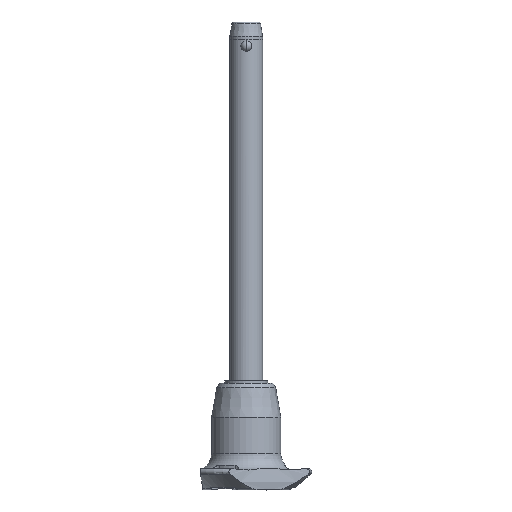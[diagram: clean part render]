
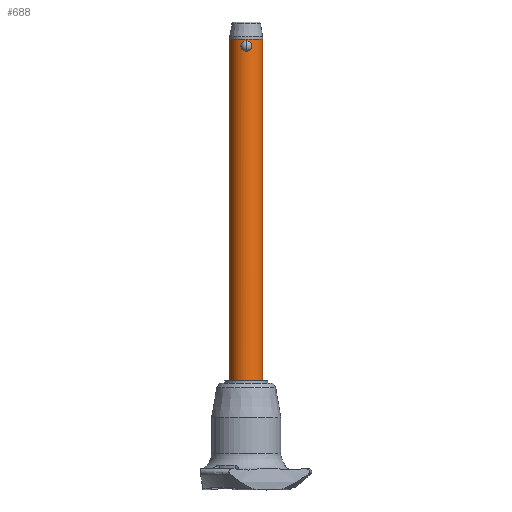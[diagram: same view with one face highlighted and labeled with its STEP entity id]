
A CAD part, front view. The second image highlights one B-rep face of the part: STEP entity #688.
In plain terms, the highlighted cylindrical face has radius 6 mm (diameter 12 mm), a partial arc.
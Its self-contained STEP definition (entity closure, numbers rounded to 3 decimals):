
#121 = DIRECTION ( 'NONE',  ( 1., 0., 0. ) ) ;
#148 = CARTESIAN_POINT ( 'NONE',  ( 0., -6., 3.708 ) ) ;
#185 = CARTESIAN_POINT ( 'NONE',  ( 0.503, -5.983, 0.045 ) ) ;
#211 = CARTESIAN_POINT ( 'NONE',  ( -0.504, -5.983, 0.045 ) ) ;
#214 = DIRECTION ( 'NONE',  ( 0., 0., 1. ) ) ;
#242 = CARTESIAN_POINT ( 'NONE',  ( -1.955, -5.673, 2.107 ) ) ;
#310 = EDGE_CURVE ( 'NONE', #790, #874, #1644, .T. ) ;
#338 = CARTESIAN_POINT ( 'NONE',  ( 0., -6., 0. ) ) ;
#397 = CARTESIAN_POINT ( 'NONE',  ( 0.966, -5.923, 0.232 ) ) ;
#420 = CARTESIAN_POINT ( 'NONE',  ( 1.851, -5.708, 2.47 ) ) ;
#441 = FACE_BOUND ( 'NONE', #2381, .T. ) ;
#462 = CARTESIAN_POINT ( 'NONE',  ( -0.252, -5.996, 3.697 ) ) ;
#515 = CARTESIAN_POINT ( 'NONE',  ( -6., 0., -120. ) ) ;
#525 = AXIS2_PLACEMENT_3D ( 'NONE', #1054, #2192, #121 ) ;
#526 = ORIENTED_EDGE ( 'NONE', *, *, #1877, .F. ) ;
#545 = CARTESIAN_POINT ( 'NONE',  ( 0., -6., 0. ) ) ;
#557 = CARTESIAN_POINT ( 'NONE',  ( 6., 0., -120. ) ) ;
#572 = LINE ( 'NONE', #557, #622 ) ;
#576 = CARTESIAN_POINT ( 'NONE',  ( 0.25, -6., 0. ) ) ;
#605 = CARTESIAN_POINT ( 'NONE',  ( 0.252, -5.996, 3.697 ) ) ;
#622 = VECTOR ( 'NONE', #2547, 1000. ) ;
#634 = CARTESIAN_POINT ( 'NONE',  ( 0.127, -6., 3.708 ) ) ;
#654 = CARTESIAN_POINT ( 'NONE',  ( -1.9, -5.692, 2.359 ) ) ;
#671 = CARTESIAN_POINT ( 'NONE',  ( -1.75, -5.74, 2.7 ) ) ;
#685 = CARTESIAN_POINT ( 'NONE',  ( 0., -6., 3.708 ) ) ;
#688 = ADVANCED_FACE ( 'NONE', ( #896, #441 ), #1762, .T. ) ;
#699 = CARTESIAN_POINT ( 'NONE',  ( -1.7, -5.755, 0.895 ) ) ;
#764 = VECTOR ( 'NONE', #1900, 1000. ) ;
#790 = VERTEX_POINT ( 'NONE', #2755 ) ;
#828 = CARTESIAN_POINT ( 'NONE',  ( 1.277, -5.863, 0.437 ) ) ;
#853 = CARTESIAN_POINT ( 'NONE',  ( 1.178, -5.884, 0.362 ) ) ;
#874 = VERTEX_POINT ( 'NONE', #1000 ) ;
#891 = CARTESIAN_POINT ( 'NONE',  ( -1.955, -5.673, 1.731 ) ) ;
#896 = FACE_OUTER_BOUND ( 'NONE', #2102, .T. ) ;
#922 = CARTESIAN_POINT ( 'NONE',  ( -0.62, -5.969, 3.619 ) ) ;
#976 = EDGE_CURVE ( 'NONE', #1170, #2130, #2654, .T. ) ;
#1000 = CARTESIAN_POINT ( 'NONE',  ( -6., 0., -120. ) ) ;
#1050 = CARTESIAN_POINT ( 'NONE',  ( 0.853, -5.94, 0.177 ) ) ;
#1054 = CARTESIAN_POINT ( 'NONE',  ( 0., 0., 4.24 ) ) ;
#1064 = CARTESIAN_POINT ( 'NONE',  ( 1.279, -5.863, 3.27 ) ) ;
#1096 = DIRECTION ( 'NONE',  ( 1., 0., 0. ) ) ;
#1100 = CARTESIAN_POINT ( 'NONE',  ( -1.46, -5.821, 3.103 ) ) ;
#1120 = B_SPLINE_CURVE_WITH_KNOTS ( 'NONE', 3,
 ( #338, #576, #185, #1050, #397, #853, #828, #1545, #2832, #1296, #1722, #1534, #2848, #2626, #2444, #2638, #420, #1761, #2201, #1064, #2169, #1749, #2653, #1323, #1947, #605, #634, #148 ),
 .UNSPECIFIED., .F., .F.,
 ( 4, 2, 2, 2, 2, 2, 2, 2, 2, 2, 2, 2, 2, 4 ),
 ( 0.006, 0.007, 0.007, 0.008, 0.008, 0.008, 0.009, 0.009, 0.01, 0.011, 0.011, 0.011, 0.012, 0.012 ),
 .UNSPECIFIED. ) ;
#1124 = VERTEX_POINT ( 'NONE', #2810 ) ;
#1170 = VERTEX_POINT ( 'NONE', #1906 ) ;
#1290 = ORIENTED_EDGE ( 'NONE', *, *, #310, .F. ) ;
#1296 = CARTESIAN_POINT ( 'NONE',  ( 1.687, -5.758, 0.899 ) ) ;
#1308 = CARTESIAN_POINT ( 'NONE',  ( 0., 0., -120. ) ) ;
#1315 = AXIS2_PLACEMENT_3D ( 'NONE', #1566, #1766, #1096 ) ;
#1323 = CARTESIAN_POINT ( 'NONE',  ( 0.62, -5.969, 3.619 ) ) ;
#1334 = CARTESIAN_POINT ( 'NONE',  ( -1.942, -5.677, 1.604 ) ) ;
#1361 = CARTESIAN_POINT ( 'NONE',  ( -0.498, -5.981, 3.652 ) ) ;
#1382 = CARTESIAN_POINT ( 'NONE',  ( -0.853, -5.94, 0.177 ) ) ;
#1396 = ORIENTED_EDGE ( 'NONE', *, *, #976, .F. ) ;
#1479 = LINE ( 'NONE', #515, #764 ) ;
#1503 = CARTESIAN_POINT ( 'NONE',  ( -1.177, -5.884, 3.347 ) ) ;
#1534 = CARTESIAN_POINT ( 'NONE',  ( 1.901, -5.692, 1.35 ) ) ;
#1542 = EDGE_CURVE ( 'NONE', #790, #1700, #572, .T. ) ;
#1545 = CARTESIAN_POINT ( 'NONE',  ( 1.459, -5.821, 0.604 ) ) ;
#1554 = CARTESIAN_POINT ( 'NONE',  ( -0.967, -5.923, 0.233 ) ) ;
#1566 = CARTESIAN_POINT ( 'NONE',  ( 0., 0., -120. ) ) ;
#1598 = CARTESIAN_POINT ( 'NONE',  ( -1.278, -5.863, 0.437 ) ) ;
#1644 = CIRCLE ( 'NONE', #1315, 6. ) ;
#1700 = VERTEX_POINT ( 'NONE', #2706 ) ;
#1720 = CARTESIAN_POINT ( 'NONE',  ( -0.966, -5.923, 3.476 ) ) ;
#1722 = CARTESIAN_POINT ( 'NONE',  ( 1.749, -5.74, 1.007 ) ) ;
#1749 = CARTESIAN_POINT ( 'NONE',  ( 0.966, -5.923, 3.476 ) ) ;
#1761 = CARTESIAN_POINT ( 'NONE',  ( 1.7, -5.755, 2.812 ) ) ;
#1762 = CYLINDRICAL_SURFACE ( 'NONE', #2310, 6. ) ;
#1766 = DIRECTION ( 'NONE',  ( 0., 0., -1. ) ) ;
#1771 = CARTESIAN_POINT ( 'NONE',  ( -1.541, -5.799, 3.011 ) ) ;
#1816 = CARTESIAN_POINT ( 'NONE',  ( -1.89, -5.695, 1.358 ) ) ;
#1877 = EDGE_CURVE ( 'NONE', #1124, #1700, #2740, .T. ) ;
#1900 = DIRECTION ( 'NONE',  ( 0., 0., 1. ) ) ;
#1906 = CARTESIAN_POINT ( 'NONE',  ( 0., -6., 3.708 ) ) ;
#1947 = CARTESIAN_POINT ( 'NONE',  ( 0.498, -5.981, 3.652 ) ) ;
#2009 = CARTESIAN_POINT ( 'NONE',  ( -0.25, -6., 0. ) ) ;
#2102 = EDGE_LOOP ( 'NONE', ( #2450, #1290, #2858, #526 ) ) ;
#2130 = VERTEX_POINT ( 'NONE', #545 ) ;
#2169 = CARTESIAN_POINT ( 'NONE',  ( 1.178, -5.884, 3.346 ) ) ;
#2192 = DIRECTION ( 'NONE',  ( 0., 0., 1. ) ) ;
#2201 = CARTESIAN_POINT ( 'NONE',  ( 1.551, -5.799, 3.018 ) ) ;
#2267 = CARTESIAN_POINT ( 'NONE',  ( -0.854, -5.94, 3.53 ) ) ;
#2310 = AXIS2_PLACEMENT_3D ( 'NONE', #1308, #214, #2861 ) ;
#2381 = EDGE_LOOP ( 'NONE', ( #1396, #2683 ) ) ;
#2401 = CARTESIAN_POINT ( 'NONE',  ( -1.687, -5.759, 2.809 ) ) ;
#2444 = CARTESIAN_POINT ( 'NONE',  ( 1.942, -5.677, 2.103 ) ) ;
#2450 = ORIENTED_EDGE ( 'NONE', *, *, #2661, .F. ) ;
#2457 = CARTESIAN_POINT ( 'NONE',  ( -1.551, -5.799, 0.69 ) ) ;
#2502 = CARTESIAN_POINT ( 'NONE',  ( -1.179, -5.884, 0.363 ) ) ;
#2547 = DIRECTION ( 'NONE',  ( 0., 0., 1. ) ) ;
#2626 = CARTESIAN_POINT ( 'NONE',  ( 1.955, -5.673, 1.979 ) ) ;
#2638 = CARTESIAN_POINT ( 'NONE',  ( 1.89, -5.695, 2.349 ) ) ;
#2653 = CARTESIAN_POINT ( 'NONE',  ( 0.855, -5.94, 3.53 ) ) ;
#2654 = B_SPLINE_CURVE_WITH_KNOTS ( 'NONE', 3,
 ( #685, #2691, #462, #1361, #922, #2267, #1720, #1503, #2896, #1100, #1771, #2401, #671, #654, #242, #891, #1334, #1816, #2721, #699, #2457, #1598, #2502, #1554, #1382, #211, #2009, #2910 ),
 .UNSPECIFIED., .F., .F.,
 ( 4, 2, 2, 2, 2, 2, 2, 2, 2, 2, 2, 2, 2, 4 ),
 ( 0., 0., 0.001, 0.001, 0.002, 0.002, 0.002, 0.003, 0.003, 0.004, 0.005, 0.005, 0.005, 0.006 ),
 .UNSPECIFIED. ) ;
#2661 = EDGE_CURVE ( 'NONE', #874, #1124, #1479, .T. ) ;
#2683 = ORIENTED_EDGE ( 'NONE', *, *, #2693, .F. ) ;
#2691 = CARTESIAN_POINT ( 'NONE',  ( -0.127, -6., 3.708 ) ) ;
#2693 = EDGE_CURVE ( 'NONE', #2130, #1170, #1120, .T. ) ;
#2706 = CARTESIAN_POINT ( 'NONE',  ( 6., 0., 4.24 ) ) ;
#2721 = CARTESIAN_POINT ( 'NONE',  ( -1.852, -5.707, 1.239 ) ) ;
#2740 = CIRCLE ( 'NONE', #525, 6. ) ;
#2755 = CARTESIAN_POINT ( 'NONE',  ( 6., 0., -120. ) ) ;
#2810 = CARTESIAN_POINT ( 'NONE',  ( -6., 0., 4.24 ) ) ;
#2832 = CARTESIAN_POINT ( 'NONE',  ( 1.543, -5.799, 0.699 ) ) ;
#2848 = CARTESIAN_POINT ( 'NONE',  ( 1.955, -5.673, 1.6 ) ) ;
#2858 = ORIENTED_EDGE ( 'NONE', *, *, #1542, .T. ) ;
#2861 = DIRECTION ( 'NONE',  ( 1., 0., 0. ) ) ;
#2896 = CARTESIAN_POINT ( 'NONE',  ( -1.278, -5.863, 3.271 ) ) ;
#2910 = CARTESIAN_POINT ( 'NONE',  ( 0., -6., 0. ) ) ;
